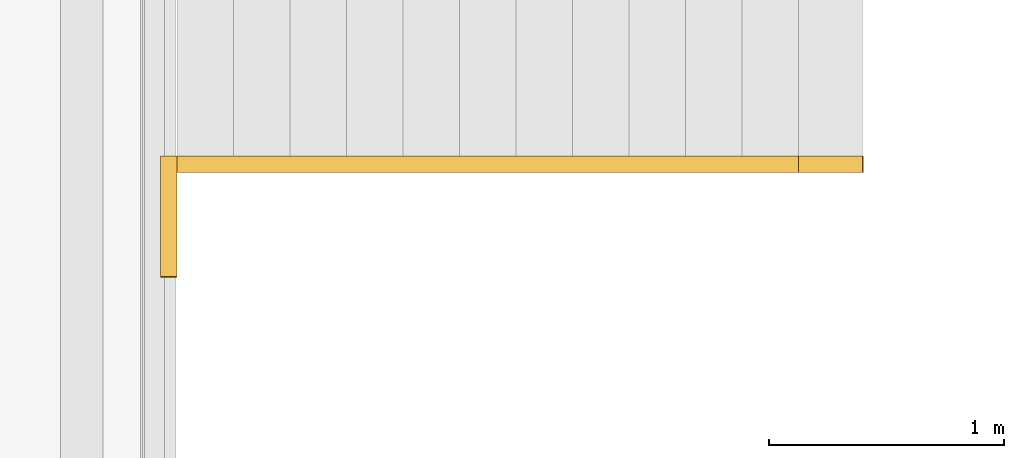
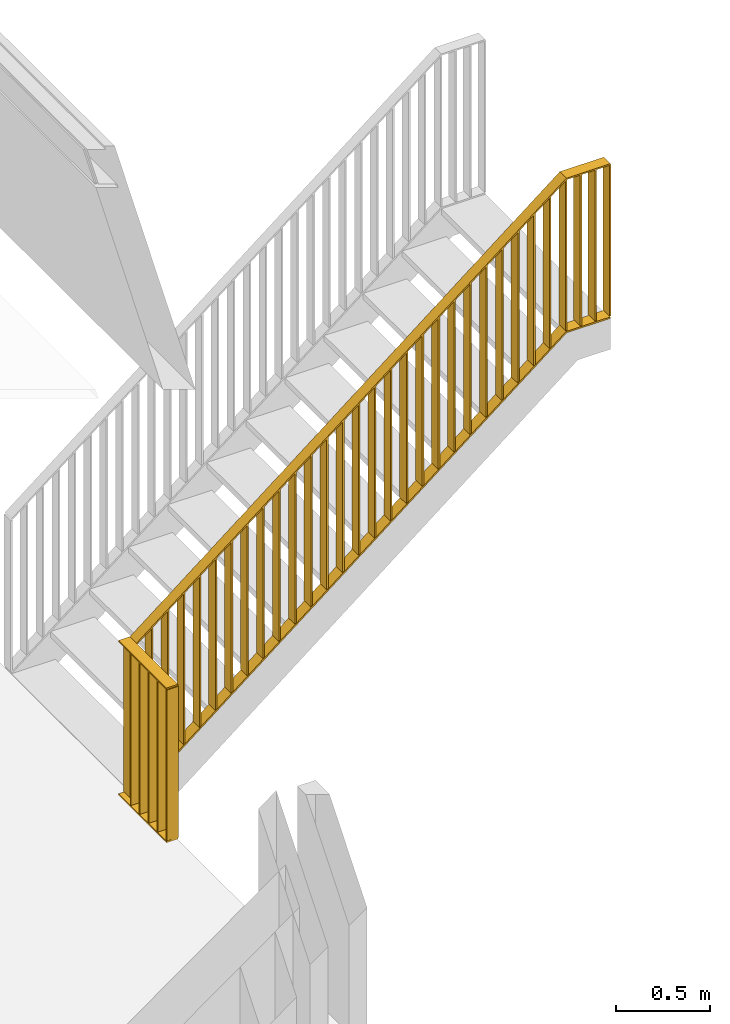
# One storey, part 85 of 94: 1 railing.
"""IFC2X3 building model written with IfcOpenShell, lengths in millimetres."""

from ifc_helpers import new_model, entity, si_unit, converted_unit, derived_unit, money_unit, direction, frame, origin_with_axes, place, context, subcontext, project, spatial, faceted_brep, material, material_list, type_object, element, save


model = new_model("IFC2X3")

# Units and contexts
model_context = context("Model", 3, precision=0.01, world=origin_with_axes(), true_north=direction((0.0, 1.0)))
body_context = subcontext(model_context, "Body", "Model", "MODEL_VIEW")
ifc_project = project(units=[si_unit("LENGTHUNIT", "METRE", prefix="MILLI"), si_unit("AREAUNIT", "SQUARE_METRE"), si_unit("VOLUMEUNIT", "CUBIC_METRE"), converted_unit("PLANEANGLEUNIT", "DEGREE", entity("IfcPlaneAngleMeasure", 0.0174532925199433), si_unit("PLANEANGLEUNIT", "RADIAN"), dimensions=[0, 0, 0, 0, 0, 0, 0]), money_unit("EUR"), converted_unit("TIMEUNIT", "Year", entity("IfcTimeMeasure", 31557600.0), si_unit("TIMEUNIT", "SECOND"), dimensions=[0, 0, 1, 0, 0, 0, 0]), si_unit("MASSUNIT", "GRAM", prefix="KILO"), si_unit("THERMODYNAMICTEMPERATUREUNIT", "DEGREE_CELSIUS"), si_unit("LUMINOUSINTENSITYUNIT", "LUMEN"), si_unit("ENERGYUNIT", "JOULE", prefix="MEGA"), derived_unit("THERMALCONDUCTANCEUNIT", [(si_unit("POWERUNIT", "WATT"), 1), (si_unit("LENGTHUNIT", "METRE"), -1), (si_unit("THERMODYNAMICTEMPERATUREUNIT", "KELVIN"), -1)]), derived_unit("SPECIFICHEATCAPACITYUNIT", [(si_unit("ENERGYUNIT", "JOULE"), 1), (si_unit("MASSUNIT", "GRAM", prefix="KILO"), -1), (si_unit("THERMODYNAMICTEMPERATUREUNIT", "KELVIN"), -1)]), derived_unit("MASSDENSITYUNIT", [(si_unit("MASSUNIT", "GRAM", prefix="KILO"), 1), (si_unit("VOLUMEUNIT", "CUBIC_METRE"), -1)])], contexts=[model_context])

# Site, building, storey
site_placement = place(None, origin_with_axes())
site = spatial("IfcSite", under=ifc_project, at=site_placement, Name="<site naam>", CompositionType="ELEMENT")
building_placement = place(site_placement, origin_with_axes())
building = spatial("IfcBuilding", under=site, at=building_placement, Name="<Naam gebouw>", CompositionType="ELEMENT")
storey_placement = place(building_placement, frame((0.0, 0.0, 4250.0), z_axis=(0.0, 0.0, 1.0), x_axis=(1.0, 0.0, 0.0)))
storey = spatial("IfcBuildingStorey", under=building, at=storey_placement, Name="01 1e verdieping", CompositionType="ELEMENT", Elevation=4250.0)

# Railing
ifc_material = material(Name="staal balustrade")
ifc_material_list = material_list([ifc_material, ifc_material, ifc_material, ifc_material, ifc_material, ifc_material, ifc_material, ifc_material, ifc_material, ifc_material, ifc_material, ifc_material, ifc_material, ifc_material, ifc_material, ifc_material, ifc_material, ifc_material, ifc_material, ifc_material, ifc_material, ifc_material, ifc_material, ifc_material, ifc_material, ifc_material, ifc_material, ifc_material, ifc_material, ifc_material, ifc_material, ifc_material, ifc_material, ifc_material, ifc_material, ifc_material, ifc_material, ifc_material, ifc_material, ifc_material, ifc_material, ifc_material, ifc_material, ifc_material, ifc_material])
railing_type = type_object("IfcRailingType", Name="Railing Type", PredefinedType="NOTDEFINED")
railing_placement = place(storey_placement, frame((53734.6422230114, 11585.00000000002, 0.0), z_axis=(0.0, 0.0, 1.0), x_axis=(1.0, 0.0, 0.0)))
element("IfcRailing", 1, at=railing_placement, inside=storey, type_object=railing_type, material=ifc_material_list, Name="34_Reling_", PredefinedType="NOTDEFINED", context=body_context, shape_type="Brep", body=[
    faceted_brep([(1349.732382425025, -1400.000000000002, 2109.999999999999), (1349.732382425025, -1400.000000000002, 3089.999999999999), (1349.732382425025, -1330.000000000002, 3089.999999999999), (1349.732382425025, -1330.000000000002, 2109.999999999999), (1359.73238242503, -1400.000000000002, 2109.999999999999), (1359.73238242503, -1400.000000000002, 3089.999999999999), (1359.73238242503, -1330.000000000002, 3089.999999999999), (1359.73238242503, -1330.000000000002, 2109.999999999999)], [[[0, 1, 2, 3]], [[4, 5, 1, 0]], [[1, 5, 6, 2]], [[3, 2, 6, 7]], [[0, 3, 7, 4]], [[7, 6, 5, 4]]]),
    faceted_brep([(1079.732382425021, -1400.000000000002, 2109.999999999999), (1079.732382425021, -1400.000000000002, 3089.999999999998), (1079.732382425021, -1330.000000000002, 3089.999999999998), (1079.732382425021, -1330.000000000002, 2109.999999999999), (1089.732382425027, -1400.000000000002, 2109.999999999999), (1089.732382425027, -1400.000000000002, 3089.999999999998), (1089.732382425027, -1330.000000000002, 3089.999999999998), (1089.732382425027, -1330.000000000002, 2109.999999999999)], [[[0, 1, 2, 3]], [[4, 5, 1, 0]], [[1, 5, 6, 2]], [[3, 2, 6, 7]], [[0, 3, 7, 4]], [[7, 6, 5, 4]]]),
    faceted_brep([(-1560.267617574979, -1400.000000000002, 14.99999999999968), (-1560.267617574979, -1400.000000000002, 994.9999999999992), (-1560.267617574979, -1330.000000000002, 994.9999999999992), (-1560.267617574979, -1330.000000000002, 14.99999999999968), (-1550.267617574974, -1400.000000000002, 14.99999999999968), (-1550.267617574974, -1400.000000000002, 994.9999999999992), (-1550.267617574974, -1330.000000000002, 994.9999999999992), (-1550.267617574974, -1330.000000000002, 14.99999999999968)], [[[0, 1, 2, 3]], [[4, 5, 1, 0]], [[1, 5, 6, 2]], [[3, 2, 6, 7]], [[0, 3, 7, 4]], [[7, 6, 5, 4]]]),
    faceted_brep([(-1595.267617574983, -1400.000000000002, 14.99999999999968), (-1595.267617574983, -1400.000000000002, 995.0000000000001), (-1595.267617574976, -1330.000000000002, 995.0000000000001), (-1595.267617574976, -1330.000000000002, 14.99999999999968), (-1585.267617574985, -1400.000000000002, 14.99999999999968), (-1585.267617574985, -1400.000000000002, 995.0000000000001), (-1585.267617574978, -1330.000000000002, 995.0000000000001), (-1585.267617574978, -1330.000000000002, 14.99999999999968)], [[[0, 1, 2, 3]], [[4, 5, 1, 0]], [[1, 5, 6, 2]], [[3, 2, 6, 7]], [[0, 3, 7, 4]], [[7, 6, 5, 4]]]),
    faceted_brep([(-1555.267617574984, -1844.999999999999, 14.99999999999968), (-1555.267617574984, -1844.999999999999, 995.0000000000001), (-1625.267617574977, -1844.999999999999, 995.0000000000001), (-1625.267617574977, -1844.999999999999, 14.99999999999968), (-1555.267617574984, -1834.999999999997, 14.99999999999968), (-1555.267617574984, -1834.999999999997, 995.0000000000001), (-1625.267617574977, -1834.999999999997, 995.0000000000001), (-1625.267617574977, -1834.999999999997, 14.99999999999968)], [[[0, 1, 2, 3]], [[4, 5, 1, 0]], [[1, 5, 6, 2]], [[3, 2, 6, 7]], [[0, 3, 7, 4]], [[7, 6, 5, 4]]]),
    faceted_brep([(1354.732382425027, -1330.000000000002, 3099.999999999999), (1354.732382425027, -1330.000000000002, 3089.999999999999), (1088.218090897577, -1330.000000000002, 3089.999999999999), (1084.732382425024, -1330.000000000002, 3099.999999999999), (1354.732382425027, -1400.000000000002, 3099.999999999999), (1354.732382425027, -1400.000000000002, 3089.999999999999), (1088.218090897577, -1400.000000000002, 3089.999999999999), (1084.732382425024, -1400.000000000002, 3099.999999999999)], [[[0, 1, 2, 3]], [[0, 4, 5, 1]], [[1, 5, 6, 2]], [[3, 2, 6, 7]], [[4, 0, 3, 7]], [[5, 4, 7, 6]]]),
    faceted_brep([(1354.732382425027, -1330.000000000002, 2104.999999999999), (1354.732382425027, -1330.000000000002, 2094.999999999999), (1084.732382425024, -1330.000000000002, 2094.999999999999), (1084.732382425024, -1330.000000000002, 2104.999999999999), (1354.732382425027, -1400.000000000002, 2104.999999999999), (1354.732382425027, -1400.000000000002, 2094.999999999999), (1084.732382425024, -1400.000000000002, 2094.999999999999), (1084.732382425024, -1400.000000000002, 2104.999999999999)], [[[0, 1, 2, 3]], [[0, 4, 5, 1]], [[1, 5, 6, 2]], [[3, 2, 6, 7]], [[4, 0, 3, 7]], [[5, 4, 7, 6]]]),
    faceted_brep([(1259.732382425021, -1400.000000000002, 2109.999999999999), (1259.732382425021, -1400.000000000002, 3089.999999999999), (1259.732382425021, -1330.000000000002, 3089.999999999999), (1259.732382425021, -1330.000000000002, 2109.999999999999), (1269.732382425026, -1400.000000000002, 2109.999999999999), (1269.732382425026, -1400.000000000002, 3089.999999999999), (1269.732382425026, -1330.000000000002, 3089.999999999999), (1269.732382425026, -1330.000000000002, 2109.999999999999)], [[[0, 1, 2, 3]], [[4, 5, 1, 0]], [[1, 5, 6, 2]], [[3, 2, 6, 7]], [[0, 3, 7, 4]], [[7, 6, 5, 4]]]),
    faceted_brep([(1169.732382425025, -1400.000000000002, 2109.999999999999), (1169.732382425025, -1400.000000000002, 3089.999999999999), (1169.732382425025, -1330.000000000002, 3089.999999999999), (1169.732382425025, -1330.000000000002, 2109.999999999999), (1179.73238242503, -1400.000000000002, 2109.999999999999), (1179.73238242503, -1400.000000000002, 3089.999999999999), (1179.73238242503, -1330.000000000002, 3089.999999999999), (1179.73238242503, -1330.000000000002, 2109.999999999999)], [[[0, 1, 2, 3]], [[4, 5, 1, 0]], [[1, 5, 6, 2]], [[3, 2, 6, 7]], [[0, 3, 7, 4]], [[7, 6, 5, 4]]]),
    faceted_brep([(1084.732382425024, -1330.000000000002, 3099.999999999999), (1088.218090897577, -1330.000000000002, 3089.999999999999), (-1551.781909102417, -1330.000000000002, 995.0000000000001), (-1555.267617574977, -1330.000000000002, 1005.0), (1084.732382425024, -1400.000000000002, 3099.999999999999), (1088.218090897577, -1400.000000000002, 3089.999999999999), (-1551.781909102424, -1400.000000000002, 995.0000000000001), (-1555.267617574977, -1400.000000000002, 1005.0)], [[[0, 1, 2, 3]], [[0, 4, 5, 1]], [[1, 5, 6, 2]], [[3, 2, 6, 7]], [[4, 0, 3, 7]], [[5, 4, 7, 6]]]),
    faceted_brep([(1084.732382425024, -1330.000000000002, 2106.383060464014), (1084.732382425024, -1330.000000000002, 2093.616939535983), (-1555.267617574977, -1330.000000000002, -1.383060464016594), (-1555.267617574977, -1330.000000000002, 11.38306046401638), (1084.732382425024, -1400.000000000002, 2106.383060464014), (1084.732382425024, -1400.000000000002, 2093.616939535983), (-1555.267617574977, -1400.000000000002, -1.383060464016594), (-1555.267617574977, -1400.000000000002, 11.38306046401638)], [[[0, 1, 2, 3]], [[0, 4, 5, 1]], [[1, 5, 6, 2]], [[3, 2, 6, 7]], [[4, 0, 3, 7]], [[5, 4, 7, 6]]]),
    faceted_brep([(981.9546046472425, -1400.000000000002, 2028.439604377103), (981.9546046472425, -1400.000000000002, 3008.439604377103), (981.9546046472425, -1330.000000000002, 3008.439604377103), (981.9546046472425, -1330.000000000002, 2028.439604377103), (991.9546046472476, -1400.000000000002, 2036.375210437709), (991.9546046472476, -1400.000000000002, 3016.375210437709), (991.9546046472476, -1330.000000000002, 3016.375210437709), (991.9546046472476, -1330.000000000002, 2036.375210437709)], [[[0, 1, 2, 3]], [[4, 5, 1, 0]], [[1, 5, 6, 2]], [[3, 2, 6, 7]], [[0, 3, 7, 4]], [[7, 6, 5, 4]]]),
    faceted_brep([(884.1768268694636, -1400.000000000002, 1950.847011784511), (884.1768268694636, -1400.000000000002, 2930.847011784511), (884.1768268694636, -1330.000000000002, 2930.847011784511), (884.1768268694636, -1330.000000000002, 1950.847011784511), (894.1768268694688, -1400.000000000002, 1958.782617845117), (894.1768268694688, -1400.000000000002, 2938.782617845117), (894.1768268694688, -1330.000000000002, 2938.782617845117), (894.1768268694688, -1330.000000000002, 1958.782617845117)], [[[0, 1, 2, 3]], [[4, 5, 1, 0]], [[1, 5, 6, 2]], [[3, 2, 6, 7]], [[0, 3, 7, 4]], [[7, 6, 5, 4]]]),
    faceted_brep([(786.3990490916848, -1400.000000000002, 1873.254419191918), (786.3990490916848, -1400.000000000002, 2853.254419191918), (786.3990490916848, -1330.000000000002, 2853.254419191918), (786.3990490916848, -1330.000000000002, 1873.254419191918), (796.3990490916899, -1400.000000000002, 1881.190025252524), (796.3990490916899, -1400.000000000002, 2861.190025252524), (796.3990490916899, -1330.000000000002, 2861.190025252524), (796.3990490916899, -1330.000000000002, 1881.190025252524)], [[[0, 1, 2, 3]], [[4, 5, 1, 0]], [[1, 5, 6, 2]], [[3, 2, 6, 7]], [[0, 3, 7, 4]], [[7, 6, 5, 4]]]),
    faceted_brep([(688.621271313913, -1400.000000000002, 1795.661826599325), (688.621271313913, -1400.000000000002, 2775.661826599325), (688.621271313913, -1330.000000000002, 2775.661826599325), (688.621271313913, -1330.000000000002, 1795.661826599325), (698.6212713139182, -1400.000000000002, 1803.597432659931), (698.6212713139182, -1400.000000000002, 2783.597432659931), (698.6212713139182, -1330.000000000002, 2783.597432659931), (698.6212713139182, -1330.000000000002, 1803.597432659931)], [[[0, 1, 2, 3]], [[4, 5, 1, 0]], [[1, 5, 6, 2]], [[3, 2, 6, 7]], [[0, 3, 7, 4]], [[7, 6, 5, 4]]]),
    faceted_brep([(590.8434935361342, -1400.000000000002, 1718.069234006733), (590.8434935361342, -1400.000000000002, 2698.069234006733), (590.8434935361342, -1330.000000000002, 2698.069234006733), (590.8434935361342, -1330.000000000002, 1718.069234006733), (600.8434935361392, -1400.000000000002, 1726.004840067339), (600.8434935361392, -1400.000000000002, 2706.00484006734), (600.8434935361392, -1330.000000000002, 2706.00484006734), (600.8434935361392, -1330.000000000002, 1726.004840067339)], [[[0, 1, 2, 3]], [[4, 5, 1, 0]], [[1, 5, 6, 2]], [[3, 2, 6, 7]], [[0, 3, 7, 4]], [[7, 6, 5, 4]]]),
    faceted_brep([(493.0657157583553, -1400.000000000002, 1640.47664141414), (493.0657157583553, -1400.000000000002, 2620.47664141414), (493.0657157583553, -1330.000000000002, 2620.47664141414), (493.0657157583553, -1330.000000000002, 1640.47664141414), (503.0657157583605, -1400.000000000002, 1648.412247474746), (503.0657157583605, -1400.000000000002, 2628.412247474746), (503.0657157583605, -1330.000000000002, 2628.412247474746), (503.0657157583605, -1330.000000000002, 1648.412247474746)], [[[0, 1, 2, 3]], [[4, 5, 1, 0]], [[1, 5, 6, 2]], [[3, 2, 6, 7]], [[0, 3, 7, 4]], [[7, 6, 5, 4]]]),
    faceted_brep([(395.2879379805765, -1400.000000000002, 1562.884048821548), (395.2879379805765, -1400.000000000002, 2542.884048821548), (395.2879379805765, -1330.000000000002, 2542.884048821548), (395.2879379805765, -1330.000000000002, 1562.884048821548), (405.2879379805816, -1400.000000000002, 1570.819654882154), (405.2879379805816, -1400.000000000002, 2550.819654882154), (405.2879379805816, -1330.000000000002, 2550.819654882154), (405.2879379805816, -1330.000000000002, 1570.819654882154)], [[[0, 1, 2, 3]], [[4, 5, 1, 0]], [[1, 5, 6, 2]], [[3, 2, 6, 7]], [[0, 3, 7, 4]], [[7, 6, 5, 4]]]),
    faceted_brep([(297.5101602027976, -1400.000000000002, 1485.291456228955), (297.5101602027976, -1400.000000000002, 2465.291456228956), (297.5101602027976, -1330.000000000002, 2465.291456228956), (297.5101602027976, -1330.000000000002, 1485.291456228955), (307.5101602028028, -1400.000000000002, 1493.227062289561), (307.5101602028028, -1400.000000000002, 2473.227062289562), (307.5101602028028, -1330.000000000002, 2473.227062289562), (307.5101602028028, -1330.000000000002, 1493.227062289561)], [[[0, 1, 2, 3]], [[4, 5, 1, 0]], [[1, 5, 6, 2]], [[3, 2, 6, 7]], [[0, 3, 7, 4]], [[7, 6, 5, 4]]]),
    faceted_brep([(199.7323824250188, -1400.000000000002, 1407.698863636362), (199.7323824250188, -1400.000000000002, 2387.698863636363), (199.7323824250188, -1330.000000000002, 2387.698863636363), (199.7323824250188, -1330.000000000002, 1407.698863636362), (209.7323824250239, -1400.000000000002, 1415.634469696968), (209.7323824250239, -1400.000000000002, 2395.634469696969), (209.7323824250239, -1330.000000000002, 2395.634469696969), (209.7323824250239, -1330.000000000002, 1415.634469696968)], [[[0, 1, 2, 3]], [[4, 5, 1, 0]], [[1, 5, 6, 2]], [[3, 2, 6, 7]], [[0, 3, 7, 4]], [[7, 6, 5, 4]]]),
    faceted_brep([(101.954604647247, -1400.000000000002, 1330.10627104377), (101.954604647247, -1400.000000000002, 2310.106271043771), (101.954604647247, -1330.000000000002, 2310.106271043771), (101.954604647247, -1330.000000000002, 1330.10627104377), (111.9546046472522, -1400.000000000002, 1338.041877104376), (111.9546046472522, -1400.000000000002, 2318.041877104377), (111.9546046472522, -1330.000000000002, 2318.041877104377), (111.9546046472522, -1330.000000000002, 1338.041877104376)], [[[0, 1, 2, 3]], [[4, 5, 1, 0]], [[1, 5, 6, 2]], [[3, 2, 6, 7]], [[0, 3, 7, 4]], [[7, 6, 5, 4]]]),
    faceted_brep([(4.176826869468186, -1400.000000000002, 1252.513678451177), (4.176826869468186, -1400.000000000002, 2232.513678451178), (4.176826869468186, -1330.000000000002, 2232.513678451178), (4.176826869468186, -1330.000000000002, 1252.513678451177), (14.1768268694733, -1400.000000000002, 1260.449284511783), (14.1768268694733, -1400.000000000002, 2240.449284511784), (14.1768268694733, -1330.000000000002, 2240.449284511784), (14.1768268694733, -1330.000000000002, 1260.449284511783)], [[[0, 1, 2, 3]], [[4, 5, 1, 0]], [[1, 5, 6, 2]], [[3, 2, 6, 7]], [[0, 3, 7, 4]], [[7, 6, 5, 4]]]),
    faceted_brep([(-93.60095090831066, -1400.000000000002, 1174.921085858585), (-93.60095090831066, -1400.000000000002, 2154.921085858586), (-93.60095090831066, -1330.000000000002, 2154.921085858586), (-93.60095090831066, -1330.000000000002, 1174.921085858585), (-83.60095090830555, -1400.000000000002, 1182.856691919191), (-83.60095090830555, -1400.000000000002, 2162.856691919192), (-83.60095090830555, -1330.000000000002, 2162.856691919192), (-83.60095090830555, -1330.000000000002, 1182.856691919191)], [[[0, 1, 2, 3]], [[4, 5, 1, 0]], [[1, 5, 6, 2]], [[3, 2, 6, 7]], [[0, 3, 7, 4]], [[7, 6, 5, 4]]]),
    faceted_brep([(-191.3787286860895, -1400.000000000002, 1097.328493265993), (-191.3787286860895, -1400.000000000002, 2077.328493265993), (-191.3787286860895, -1330.000000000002, 2077.328493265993), (-191.3787286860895, -1330.000000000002, 1097.328493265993), (-181.3787286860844, -1400.000000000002, 1105.264099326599), (-181.3787286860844, -1400.000000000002, 2085.264099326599), (-181.3787286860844, -1330.000000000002, 2085.264099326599), (-181.3787286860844, -1330.000000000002, 1105.264099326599)], [[[0, 1, 2, 3]], [[4, 5, 1, 0]], [[1, 5, 6, 2]], [[3, 2, 6, 7]], [[0, 3, 7, 4]], [[7, 6, 5, 4]]]),
    faceted_brep([(-289.1565064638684, -1400.000000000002, 1019.7359006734), (-289.1565064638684, -1400.000000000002, 1999.7359006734), (-289.1565064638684, -1330.000000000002, 1999.7359006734), (-289.1565064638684, -1330.000000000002, 1019.7359006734), (-279.1565064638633, -1400.000000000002, 1027.671506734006), (-279.1565064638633, -1400.000000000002, 2007.671506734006), (-279.1565064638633, -1330.000000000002, 2007.671506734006), (-279.1565064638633, -1330.000000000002, 1027.671506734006)], [[[0, 1, 2, 3]], [[4, 5, 1, 0]], [[1, 5, 6, 2]], [[3, 2, 6, 7]], [[0, 3, 7, 4]], [[7, 6, 5, 4]]]),
    faceted_brep([(-386.9342842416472, -1400.000000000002, 942.1433080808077), (-386.9342842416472, -1400.000000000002, 1922.143308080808), (-386.9342842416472, -1330.000000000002, 1922.143308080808), (-386.9342842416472, -1330.000000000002, 942.1433080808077), (-376.9342842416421, -1400.000000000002, 950.0789141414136), (-376.9342842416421, -1400.000000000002, 1930.078914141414), (-376.9342842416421, -1330.000000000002, 1930.078914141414), (-376.9342842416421, -1330.000000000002, 950.0789141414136)], [[[0, 1, 2, 3]], [[4, 5, 1, 0]], [[1, 5, 6, 2]], [[3, 2, 6, 7]], [[0, 3, 7, 4]], [[7, 6, 5, 4]]]),
    faceted_brep([(-484.7120620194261, -1400.000000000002, 864.5507154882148), (-484.7120620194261, -1400.000000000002, 1844.550715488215), (-484.7120620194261, -1330.000000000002, 1844.550715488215), (-484.7120620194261, -1330.000000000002, 864.5507154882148), (-474.712062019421, -1400.000000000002, 872.4863215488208), (-474.712062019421, -1400.000000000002, 1852.486321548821), (-474.712062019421, -1330.000000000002, 1852.486321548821), (-474.712062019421, -1330.000000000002, 872.4863215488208)], [[[0, 1, 2, 3]], [[4, 5, 1, 0]], [[1, 5, 6, 2]], [[3, 2, 6, 7]], [[0, 3, 7, 4]], [[7, 6, 5, 4]]]),
    faceted_brep([(-582.4898397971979, -1400.000000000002, 786.9581228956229), (-582.4898397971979, -1400.000000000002, 1766.958122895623), (-582.4898397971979, -1330.000000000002, 1766.958122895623), (-582.4898397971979, -1330.000000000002, 786.9581228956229), (-572.4898397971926, -1400.000000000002, 794.8937289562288), (-572.4898397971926, -1400.000000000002, 1774.893728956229), (-572.4898397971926, -1330.000000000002, 1774.893728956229), (-572.4898397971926, -1330.000000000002, 794.8937289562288)], [[[0, 1, 2, 3]], [[4, 5, 1, 0]], [[1, 5, 6, 2]], [[3, 2, 6, 7]], [[0, 3, 7, 4]], [[7, 6, 5, 4]]]),
    faceted_brep([(-680.2676175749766, -1400.000000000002, 709.3655303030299), (-680.2676175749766, -1400.000000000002, 1689.36553030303), (-680.2676175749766, -1330.000000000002, 1689.36553030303), (-680.2676175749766, -1330.000000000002, 709.3655303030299), (-670.2676175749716, -1400.000000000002, 717.3011363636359), (-670.2676175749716, -1400.000000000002, 1697.301136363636), (-670.2676175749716, -1330.000000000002, 1697.301136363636), (-670.2676175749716, -1330.000000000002, 717.3011363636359)], [[[0, 1, 2, 3]], [[4, 5, 1, 0]], [[1, 5, 6, 2]], [[3, 2, 6, 7]], [[0, 3, 7, 4]], [[7, 6, 5, 4]]]),
    faceted_brep([(-778.0453953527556, -1400.000000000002, 631.7729377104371), (-778.0453953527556, -1400.000000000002, 1611.772937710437), (-778.0453953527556, -1330.000000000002, 1611.772937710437), (-778.0453953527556, -1330.000000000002, 631.7729377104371), (-768.0453953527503, -1400.000000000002, 639.708543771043), (-768.0453953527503, -1400.000000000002, 1619.708543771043), (-768.0453953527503, -1330.000000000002, 1619.708543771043), (-768.0453953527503, -1330.000000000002, 639.708543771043)], [[[0, 1, 2, 3]], [[4, 5, 1, 0]], [[1, 5, 6, 2]], [[3, 2, 6, 7]], [[0, 3, 7, 4]], [[7, 6, 5, 4]]]),
    faceted_brep([(-875.8231731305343, -1400.000000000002, 554.180345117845), (-875.8231731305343, -1400.000000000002, 1534.180345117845), (-875.8231731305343, -1330.000000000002, 1534.180345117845), (-875.8231731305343, -1330.000000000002, 554.180345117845), (-865.8231731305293, -1400.000000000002, 562.115951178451), (-865.8231731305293, -1400.000000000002, 1542.115951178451), (-865.8231731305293, -1330.000000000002, 1542.115951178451), (-865.8231731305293, -1330.000000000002, 562.115951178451)], [[[0, 1, 2, 3]], [[4, 5, 1, 0]], [[1, 5, 6, 2]], [[3, 2, 6, 7]], [[0, 3, 7, 4]], [[7, 6, 5, 4]]]),
    faceted_brep([(-973.6009509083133, -1400.000000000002, 476.5877525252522), (-973.6009509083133, -1400.000000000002, 1456.587752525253), (-973.6009509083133, -1330.000000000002, 1456.587752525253), (-973.6009509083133, -1330.000000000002, 476.5877525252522), (-963.600950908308, -1400.000000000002, 484.5233585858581), (-963.600950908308, -1400.000000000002, 1464.523358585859), (-963.600950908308, -1330.000000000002, 1464.523358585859), (-963.600950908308, -1330.000000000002, 484.5233585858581)], [[[0, 1, 2, 3]], [[4, 5, 1, 0]], [[1, 5, 6, 2]], [[3, 2, 6, 7]], [[0, 3, 7, 4]], [[7, 6, 5, 4]]]),
    faceted_brep([(-1071.378728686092, -1400.000000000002, 398.9951599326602), (-1071.378728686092, -1400.000000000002, 1378.995159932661), (-1071.378728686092, -1330.000000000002, 1378.995159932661), (-1071.378728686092, -1330.000000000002, 398.9951599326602), (-1061.378728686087, -1400.000000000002, 406.9307659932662), (-1061.378728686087, -1400.000000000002, 1386.930765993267), (-1061.378728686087, -1330.000000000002, 1386.930765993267), (-1061.378728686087, -1330.000000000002, 406.9307659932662)], [[[0, 1, 2, 3]], [[4, 5, 1, 0]], [[1, 5, 6, 2]], [[3, 2, 6, 7]], [[0, 3, 7, 4]], [[7, 6, 5, 4]]]),
    faceted_brep([(-1169.156506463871, -1400.000000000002, 321.4025673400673), (-1169.156506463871, -1400.000000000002, 1301.402567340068), (-1169.156506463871, -1330.000000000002, 1301.402567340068), (-1169.156506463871, -1330.000000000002, 321.4025673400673), (-1159.156506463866, -1400.000000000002, 329.3381734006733), (-1159.156506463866, -1400.000000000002, 1309.338173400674), (-1159.156506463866, -1330.000000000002, 1309.338173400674), (-1159.156506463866, -1330.000000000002, 329.3381734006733)], [[[0, 1, 2, 3]], [[4, 5, 1, 0]], [[1, 5, 6, 2]], [[3, 2, 6, 7]], [[0, 3, 7, 4]], [[7, 6, 5, 4]]]),
    faceted_brep([(-1266.934284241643, -1400.000000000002, 243.8099747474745), (-1266.934284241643, -1400.000000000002, 1223.809974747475), (-1266.934284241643, -1330.000000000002, 1223.809974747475), (-1266.934284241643, -1330.000000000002, 243.8099747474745), (-1256.934284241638, -1400.000000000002, 251.7455808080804), (-1256.934284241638, -1400.000000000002, 1231.745580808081), (-1256.934284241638, -1330.000000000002, 1231.745580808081), (-1256.934284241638, -1330.000000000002, 251.7455808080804)], [[[0, 1, 2, 3]], [[4, 5, 1, 0]], [[1, 5, 6, 2]], [[3, 2, 6, 7]], [[0, 3, 7, 4]], [[7, 6, 5, 4]]]),
    faceted_brep([(-1364.712062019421, -1400.000000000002, 166.2173821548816), (-1364.712062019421, -1400.000000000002, 1146.217382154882), (-1364.712062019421, -1330.000000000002, 1146.217382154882), (-1364.712062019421, -1330.000000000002, 166.2173821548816), (-1354.712062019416, -1400.000000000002, 174.1529882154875), (-1354.712062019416, -1400.000000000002, 1154.152988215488), (-1354.712062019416, -1330.000000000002, 1154.152988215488), (-1354.712062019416, -1330.000000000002, 174.1529882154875)], [[[0, 1, 2, 3]], [[4, 5, 1, 0]], [[1, 5, 6, 2]], [[3, 2, 6, 7]], [[0, 3, 7, 4]], [[7, 6, 5, 4]]]),
    faceted_brep([(-1462.4898397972, -1400.000000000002, 88.6247895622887), (-1462.4898397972, -1400.000000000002, 1068.624789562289), (-1462.4898397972, -1330.000000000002, 1068.624789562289), (-1462.4898397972, -1330.000000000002, 88.6247895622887), (-1452.489839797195, -1400.000000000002, 96.56039562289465), (-1452.489839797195, -1400.000000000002, 1076.560395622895), (-1452.489839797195, -1330.000000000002, 1076.560395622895), (-1452.489839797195, -1330.000000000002, 96.56039562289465)], [[[0, 1, 2, 3]], [[4, 5, 1, 0]], [[1, 5, 6, 2]], [[3, 2, 6, 7]], [[0, 3, 7, 4]], [[7, 6, 5, 4]]]),
    faceted_brep([(-1625.267617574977, -1329.999999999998, 1005.0), (-1555.267617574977, -1400.000000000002, 1005.0), (-1555.267617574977, -1330.000000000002, 1005.0), (-1625.267617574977, -1329.999999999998, 995.0000000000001), (-1555.267617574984, -1400.000000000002, 995.0000000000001), (-1551.781909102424, -1400.000000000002, 995.0000000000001), (-1551.781909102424, -1330.000000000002, 995.0000000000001)], [[[0, 1, 2]], [[3, 4, 1, 0]], [[2, 1, 5, 6]], [[3, 0, 2, 6]], [[4, 3, 6, 5]], [[1, 4, 5]]]),
    faceted_brep([(-1555.267617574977, -1400.000000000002, 0.0), (-1625.267617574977, -1329.999999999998, 0.0), (-1555.267617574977, -1330.000000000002, 0.0), (-1555.267617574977, -1400.000000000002, 9.999999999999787), (-1625.267617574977, -1329.999999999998, 9.999999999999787), (-1555.267617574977, -1330.000000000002, 9.999999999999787)], [[[0, 1, 2]], [[1, 0, 3, 4]], [[1, 4, 5, 2]], [[0, 2, 5, 3]], [[4, 3, 5]]]),
    faceted_brep([(-1625.267617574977, -1330.0, 1005.0), (-1625.267617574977, -1330.0, 995.0000000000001), (-1625.267617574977, -1839.999999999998, 995.0000000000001), (-1625.267617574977, -1839.999999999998, 1005.0), (-1555.267617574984, -1400.000000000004, 1005.0), (-1555.267617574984, -1400.000000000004, 995.0000000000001), (-1555.267617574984, -1839.999999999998, 995.0000000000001), (-1555.267617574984, -1839.999999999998, 1005.0)], [[[0, 1, 2, 3]], [[0, 4, 5, 1]], [[1, 5, 6, 2]], [[3, 2, 6, 7]], [[4, 0, 3, 7]], [[5, 4, 7, 6]]]),
    faceted_brep([(-1625.267617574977, -1330.0, 9.999999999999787), (-1625.267617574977, -1330.0, 0.0), (-1625.267617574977, -1839.999999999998, 0.0), (-1625.267617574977, -1839.999999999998, 9.999999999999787), (-1555.267617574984, -1400.000000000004, 9.999999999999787), (-1555.267617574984, -1400.000000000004, 0.0), (-1555.267617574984, -1839.999999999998, 0.0), (-1555.267617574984, -1839.999999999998, 9.999999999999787)], [[[0, 1, 2, 3]], [[0, 4, 5, 1]], [[1, 5, 6, 2]], [[3, 2, 6, 7]], [[4, 0, 3, 7]], [[5, 4, 7, 6]]]),
    faceted_brep([(-1555.267617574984, -1465.000000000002, 14.99999999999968), (-1555.267617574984, -1465.000000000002, 995.0000000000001), (-1625.267617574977, -1465.000000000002, 995.0000000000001), (-1625.267617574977, -1465.000000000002, 14.99999999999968), (-1555.267617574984, -1455.0, 14.99999999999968), (-1555.267617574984, -1455.0, 995.0000000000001), (-1625.267617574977, -1455.0, 995.0000000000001), (-1625.267617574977, -1455.0, 14.99999999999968)], [[[0, 1, 2, 3]], [[4, 5, 1, 0]], [[1, 5, 6, 2]], [[3, 2, 6, 7]], [[0, 3, 7, 4]], [[7, 6, 5, 4]]]),
    faceted_brep([(-1555.267617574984, -1560.0, 14.99999999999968), (-1555.267617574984, -1560.0, 995.0000000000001), (-1625.267617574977, -1560.0, 995.0000000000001), (-1625.267617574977, -1560.0, 14.99999999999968), (-1555.267617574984, -1549.999999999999, 14.99999999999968), (-1555.267617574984, -1549.999999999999, 995.0000000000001), (-1625.267617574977, -1549.999999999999, 995.0000000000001), (-1625.267617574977, -1549.999999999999, 14.99999999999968)], [[[0, 1, 2, 3]], [[4, 5, 1, 0]], [[1, 5, 6, 2]], [[3, 2, 6, 7]], [[0, 3, 7, 4]], [[7, 6, 5, 4]]]),
    faceted_brep([(-1555.267617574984, -1655.000000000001, 14.99999999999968), (-1555.267617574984, -1655.000000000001, 995.0000000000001), (-1625.267617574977, -1655.000000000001, 995.0000000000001), (-1625.267617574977, -1655.000000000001, 14.99999999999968), (-1555.267617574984, -1645.0, 14.99999999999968), (-1555.267617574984, -1645.0, 995.0000000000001), (-1625.267617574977, -1645.0, 995.0000000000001), (-1625.267617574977, -1645.0, 14.99999999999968)], [[[0, 1, 2, 3]], [[4, 5, 1, 0]], [[1, 5, 6, 2]], [[3, 2, 6, 7]], [[0, 3, 7, 4]], [[7, 6, 5, 4]]]),
    faceted_brep([(-1555.267617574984, -1750.0, 14.99999999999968), (-1555.267617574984, -1750.0, 995.0000000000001), (-1625.267617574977, -1750.0, 995.0000000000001), (-1625.267617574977, -1750.0, 14.99999999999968), (-1555.267617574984, -1739.999999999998, 14.99999999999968), (-1555.267617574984, -1739.999999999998, 995.0000000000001), (-1625.267617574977, -1739.999999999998, 995.0000000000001), (-1625.267617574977, -1739.999999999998, 14.99999999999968)], [[[0, 1, 2, 3]], [[4, 5, 1, 0]], [[1, 5, 6, 2]], [[3, 2, 6, 7]], [[0, 3, 7, 4]], [[7, 6, 5, 4]]]),
])

save(model, "model.ifc")
